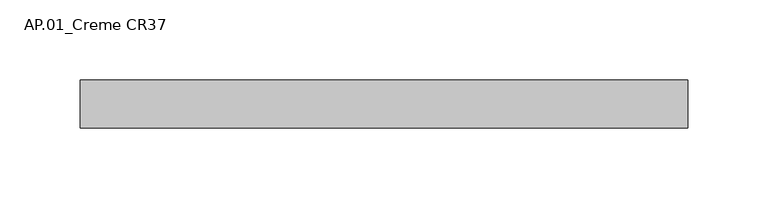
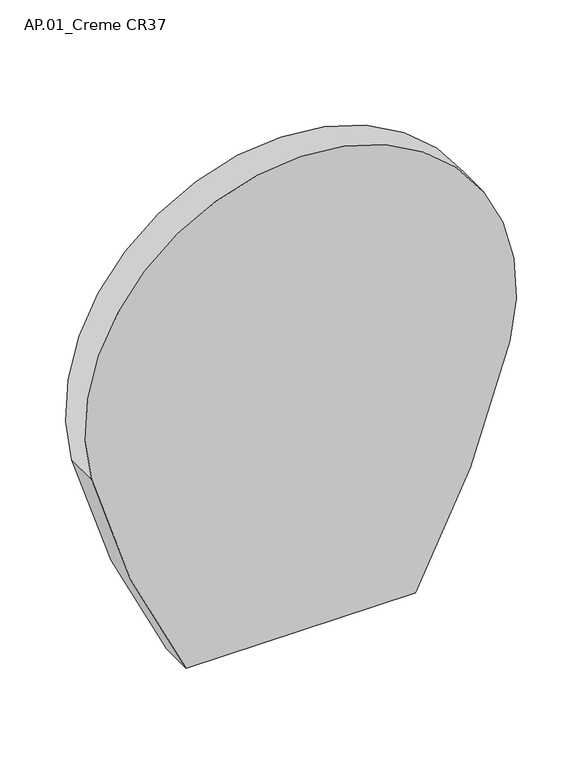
"""IFC4 building model written with IfcOpenShell, lengths in millimetres: flow terminal geometry, Deca_Shared_Assento_P.900 : AP.01_Creme CR37."""

from ifc_helpers import new_model, si_unit, point, frame, frame_2d, origin, place, context, project, spatial, polyline, circle_curve, trimmed, segment, composite_curve, outline, extrude, source, transform, mapped, element, save


def ap_01_creme_cr37_5ce6e54d(model_context):
    return source(origin(), model_context, "Body", "SweptSolid", [
        extrude(outline(composite_curve([segment(trimmed(circle_curve(frame_2d((393.1556954, -591.180351)), 799.6891514), [point((-7.4453362, 100.9334781))], [point((197.6093151, 184.2320245))], False, "CARTESIAN"), True, "CONTINUOUS"), segment(trimmed(circle_curve(frame_2d((244.0696331, 0.0)), 190.0), [point((197.6093151, 184.2320245))], [point((197.6093151, -184.2320245))], False, "CARTESIAN"), True, "CONTINUOUS"), segment(trimmed(circle_curve(frame_2d((393.1556954, 591.180351)), 799.6891514), [point((197.6093151, -184.2320245))], [point((-7.4453362, -100.9334781))], False, "CARTESIAN"), True, "CONTINUOUS"), segment(polyline([(-7.4453362, -100.9334781), (-7.4453362, 100.9334781)]), True, "CONTINUOUS")], self_intersect=False)), frame((0.0, -36.0125, 0.0), z_axis=(0.0, 1.0, 0.0), x_axis=(0.0, 0.0, 1.0)), (0.0, 0.0, 1.0), 30.0),
    ])


if __name__ == "__main__":
    model = new_model("IFC4")
    model_context = context("Model", 3, world=origin())
    ifc_project = project(units=[si_unit("LENGTHUNIT", "METRE", prefix="MILLI")], contexts=[model_context])
    site = spatial("IfcSite", under=ifc_project)
    building = spatial("IfcBuilding", under=site)
    placement = place(None, origin())
    ap_01_creme_cr37_shape = ap_01_creme_cr37_5ce6e54d(model_context)
    element("IfcFlowTerminal", 1, ObjectType="Deca_Shared_Assento_P.900 : AP.01_Creme CR37", at=placement, inside=building, context=model_context, shape_type="MappedRepresentation", body=[
        mapped(ap_01_creme_cr37_shape, transform((0.0, 0.0, 0.0), x_axis=(1.0, 0.0, 0.0), y_axis=(0.0, 1.0, 0.0), z_axis=(0.0, 0.0, 1.0))),
    ])
    save(model, "model.ifc")
